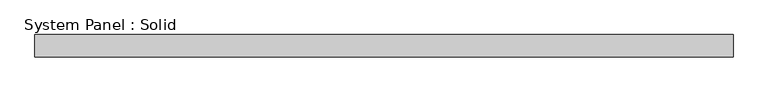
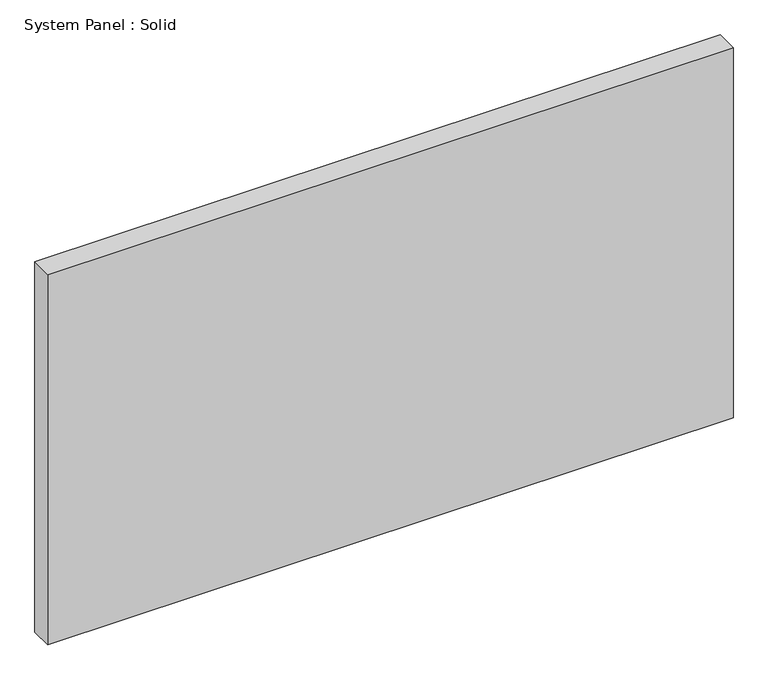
"""IFC4 building model written with IfcOpenShell, lengths in millimetres: plate geometry, System Panel : Solid."""

import ifcopenshell
import ifcopenshell.guid

model = None  # the IFC model being written
_history = None  # IfcOwnerHistory: only IFC2X3 demands one
_inside = {}  # id of a spatial element -> (the spatial element, [elements in it])
_under = {}  # id of a project, library or spatial element -> (it, [spatial elements below it])
_declared = {}  # id of a project -> (the project, [libraries it declares])
_typed = {}  # id of a type object -> (the type object, [elements of that type])
_made_of = {}  # id of a material, layer set ... -> (it, [elements and type objects made of it])


def new_model(schema):
    """Start an empty IFC model of exactly this schema.

    Asked for "IFC4X3", IfcOpenShell would pick the latest addendum, in which some entities
    have other attributes; the version numbers below select the first issue.
    IFC2X3 requires an IfcOwnerHistory on every rooted entity: one is made here for all.
    """
    global model, _history
    if schema == "IFC4X3":
        model = ifcopenshell.file(schema_version=(4, 3, 0, 0))
    else:
        model = ifcopenshell.file(schema=schema)
    _inside.clear()
    _under.clear()
    _declared.clear()
    _typed.clear()
    _made_of.clear()
    _history = None
    if model.schema == "IFC2X3":
        org = make("IfcOrganization", Name="unknown")
        user = make(
            "IfcPersonAndOrganization",
            ThePerson=make("IfcPerson", FamilyName="unknown"),
            TheOrganization=org,
        )
        app = make(
            "IfcApplication",
            ApplicationDeveloper=org,
            Version="unknown",
            ApplicationFullName="unknown",
            ApplicationIdentifier="unknown",
        )
        _history = make(
            "IfcOwnerHistory",
            OwningUser=user,
            OwningApplication=app,
            ChangeAction="ADDED",
            CreationDate=0,
        )
    return model


def make(cls, **values):
    """One entity of the class cls with the attributes given. An attribute that is None is left unset."""
    return model.create_entity(
        cls, **{name: value for name, value in values.items() if value is not None}
    )


def rooted(cls, **values):
    """An entity with a GlobalId (a new one), such as an element, a storey or a relation."""
    return make(cls, GlobalId=ifcopenshell.guid.new(), OwnerHistory=_history, **values)


def si_unit(unit_type, name, prefix=None):
    """IfcSIUnit, for example si_unit("LENGTHUNIT", "METRE", prefix="MILLI")."""
    return make("IfcSIUnit", UnitType=unit_type, Prefix=prefix, Name=name)


def assignment(units):
    """IfcUnitAssignment: the units of a project."""
    return None if units is None else make("IfcUnitAssignment", Units=units)


def point(xyz):
    """IfcCartesianPoint."""
    return None if xyz is None else make("IfcCartesianPoint", Coordinates=xyz)


def direction(xyz):
    """IfcDirection."""
    return None if xyz is None else make("IfcDirection", DirectionRatios=xyz)


def frame(location, z_axis=None, x_axis=None):
    """IfcAxis2Placement3D, a coordinate frame: its origin and axes. An axis left out is left unset."""
    return make(
        "IfcAxis2Placement3D",
        Location=point(location),
        Axis=direction(z_axis),
        RefDirection=direction(x_axis),
    )


def origin():
    """The frame at (0, 0, 0) with its axes left unset."""
    return frame((0.0, 0.0, 0.0))


def origin_with_axes():
    """The frame at (0, 0, 0) with the z axis (0, 0, 1) and the x axis (1, 0, 0) written out."""
    return frame((0.0, 0.0, 0.0), z_axis=(0.0, 0.0, 1.0), x_axis=(1.0, 0.0, 0.0))


def place(relative_to, where):
    """IfcLocalPlacement: puts the frame where relative to a parent placement (None: the world)."""
    return make(
        "IfcLocalPlacement", PlacementRelTo=relative_to, RelativePlacement=where
    )


def context(
    kind, dimensions, precision=None, world=None, true_north=None, identifier=None
):
    """IfcGeometricRepresentationContext, for example the 3D "Model" context."""
    return make(
        "IfcGeometricRepresentationContext",
        ContextIdentifier=identifier,
        ContextType=kind,
        CoordinateSpaceDimension=dimensions,
        Precision=precision,
        WorldCoordinateSystem=world,
        TrueNorth=true_north,
    )


def project(units=None, contexts=None):
    """IfcProject with its units and contexts."""
    return rooted(
        "IfcProject",
        Name="project",
        RepresentationContexts=contexts,
        UnitsInContext=assignment(units),
    )


def spatial(cls, under=None, at=None, **own):
    """A site, building, storey or space (cls), placed at a placement, below another one or the project."""
    s = rooted(cls, ObjectPlacement=at, **own)
    if under is not None:
        _under.setdefault(under.id(), (under, []))[1].append(s)
    return s


def polyline(points):
    """IfcPolyline through the points."""
    return make("IfcPolyline", Points=[point(p) for p in points])


def outline(outer, holes=None, kind="AREA"):
    """IfcArbitraryClosedProfileDef: a profile drawn as a closed curve; with holes, ...WithVoids."""
    if holes is None:
        return make("IfcArbitraryClosedProfileDef", ProfileType=kind, OuterCurve=outer)
    return make(
        "IfcArbitraryProfileDefWithVoids",
        ProfileType=kind,
        OuterCurve=outer,
        InnerCurves=holes,
    )


def extrude(swept, where, along, depth):
    """IfcExtrudedAreaSolid: the profile swept, set in the frame where, extruded along a direction by depth."""
    return make(
        "IfcExtrudedAreaSolid",
        SweptArea=swept,
        Position=where,
        ExtrudedDirection=direction(along),
        Depth=depth,
    )


def shape(context_of_items, identifier, shape_type, items):
    """IfcShapeRepresentation: the items that make up one representation, for example the "Body"."""
    return make(
        "IfcShapeRepresentation",
        ContextOfItems=context_of_items,
        RepresentationIdentifier=identifier,
        RepresentationType=shape_type,
        Items=items,
    )


def source(mapping_origin, context_of_items, identifier, shape_type, items):
    """IfcRepresentationMap: a shape defined once, which mapped items show again and again."""
    return make(
        "IfcRepresentationMap",
        MappingOrigin=mapping_origin,
        MappedRepresentation=shape(context_of_items, identifier, shape_type, items),
    )


def transform(
    local_origin,
    x_axis=None,
    y_axis=None,
    z_axis=None,
    scale=None,
    scale2=None,
    scale3=None,
    uniform=True,
):
    """IfcCartesianTransformationOperator3D, or its non-uniform kind. x_axis, y_axis, z_axis: its Axis1, 2, 3."""
    if uniform:
        return make(
            "IfcCartesianTransformationOperator3D",
            Axis1=direction(x_axis),
            Axis2=direction(y_axis),
            LocalOrigin=point(local_origin),
            Scale=scale,
            Axis3=direction(z_axis),
        )
    return make(
        "IfcCartesianTransformationOperator3DnonUniform",
        Axis1=direction(x_axis),
        Axis2=direction(y_axis),
        LocalOrigin=point(local_origin),
        Scale=scale,
        Axis3=direction(z_axis),
        Scale2=scale2,
        Scale3=scale3,
    )


def mapped(mapping_source, mapping_target):
    """IfcMappedItem: shows the shape of a source again, moved by a transform."""
    return make(
        "IfcMappedItem", MappingSource=mapping_source, MappingTarget=mapping_target
    )


def made_of(thing, what):
    """Note that an element or type object is made of a material, layer set ...; save() writes the relation."""
    if what is not None:
        _made_of.setdefault(what.id(), (what, []))[1].append(thing)
    return thing


def element(
    cls,
    number,
    at=None,
    inside=None,
    cuts=None,
    type_object=None,
    material=None,
    context=None,
    identifier="Body",
    shape_type=None,
    held_by="IfcProductDefinitionShape",
    body=None,
    shapes=None,
    **own,
):
    """One element of the class cls, such as IfcWall. Its Tag is "e" and its number.

    at: its placement. inside: the storey or other place that contains it. cuts: it is an
    opening in that element (IfcRelVoidsElement). A single representation is given by context,
    identifier, shape_type and body (its items); several are given by shapes. held_by: the class
    of the entity that holds the representations. save() writes the other relations.
    """
    e = rooted(cls, Tag="e%d" % number, ObjectPlacement=at, **own)
    if body is not None:
        shapes = [shape(context, identifier, shape_type, body)]
    if shapes is not None:
        e.Representation = make(held_by, Representations=shapes)
    if inside is not None:
        _inside.setdefault(inside.id(), (inside, []))[1].append(e)
    if cuts is not None:
        rooted(
            "IfcRelVoidsElement", RelatingBuildingElement=cuts, RelatedOpeningElement=e
        )
    if type_object is not None:
        _typed.setdefault(type_object.id(), (type_object, []))[1].append(e)
    return made_of(e, material)


def aggregate(whole, parts):
    """IfcRelAggregates: a whole, such as a stair, and the parts it consists of."""
    return rooted("IfcRelAggregates", RelatingObject=whole, RelatedObjects=parts)


def save(model, path):
    """Write the relations noted so far, then the file.

    IfcRelAggregates (storeys below a building ...), IfcRelContainedInSpatialStructure (elements
    in a storey), IfcRelDefinesByType, IfcRelAssociatesMaterial and IfcRelDeclares: one each for
    every whole, place, type object, material and project.
    """
    for whole, parts in _under.values():
        aggregate(whole, parts)
    for where, things in _inside.values():
        rooted(
            "IfcRelContainedInSpatialStructure",
            RelatedElements=things,
            RelatingStructure=where,
        )
    for kind, things in _typed.values():
        rooted("IfcRelDefinesByType", RelatedObjects=things, RelatingType=kind)
    for what, things in _made_of.values():
        rooted("IfcRelAssociatesMaterial", RelatedObjects=things, RelatingMaterial=what)
    for by, libraries in _declared.values():
        rooted("IfcRelDeclares", RelatingContext=by, RelatedDefinitions=libraries)
    model.write(path)


def system_panel_solid_b376696c(model_context):
    return source(origin(), model_context, "Body", "SweptSolid", [
        extrude(outline(polyline([(984.25, -44.45), (-984.25, -44.45), (-984.25, 19.05), (984.25, 19.05), (984.25, -44.45)])), origin_with_axes(), (0.0, 0.0, 1.0), 1123.95),
    ])


if __name__ == "__main__":
    model = new_model("IFC4")
    model_context = context("Model", 3, world=origin())
    ifc_project = project(units=[si_unit("LENGTHUNIT", "METRE", prefix="MILLI")], contexts=[model_context])
    site = spatial("IfcSite", under=ifc_project)
    building = spatial("IfcBuilding", under=site)
    placement = place(None, origin())
    system_panel_solid_shape = system_panel_solid_b376696c(model_context)
    element("IfcPlate", 1, ObjectType="System Panel : Solid", at=placement, inside=building, context=model_context, shape_type="MappedRepresentation", body=[
        mapped(system_panel_solid_shape, transform((0.0, 0.0, 0.0), x_axis=(1.0, 0.0, 0.0), y_axis=(0.0, 1.0, 0.0), z_axis=(0.0, 0.0, 1.0))),
    ])
    save(model, "model.ifc")
